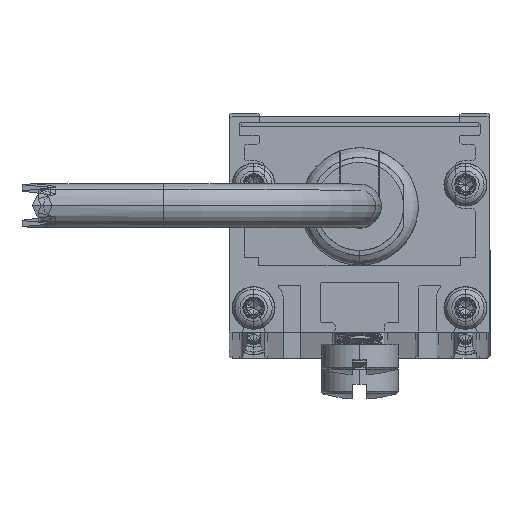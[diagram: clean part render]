
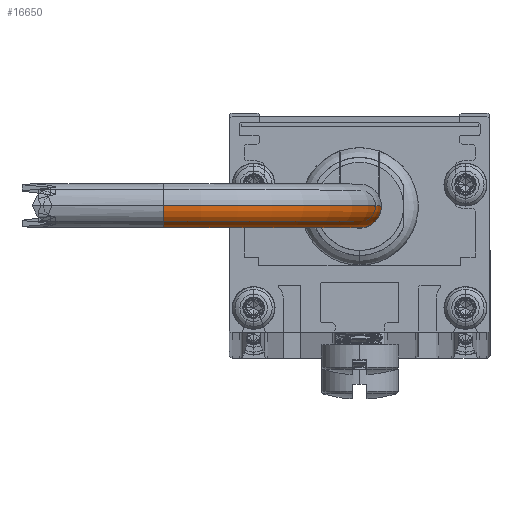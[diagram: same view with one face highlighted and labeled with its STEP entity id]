
A CAD part, top view. The second image highlights one B-rep face of the part: STEP entity #16650.
In plain terms, the highlighted toroidal (fillet/blend) face has major radius 25.4 mm and minor radius 2.845 mm.
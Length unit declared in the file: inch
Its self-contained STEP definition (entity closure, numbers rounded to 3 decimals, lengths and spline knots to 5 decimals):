
#514 = VERTEX_POINT ( 'NONE', #16272 ) ;
#708 = CIRCLE ( 'NONE', #14692, 1.112 ) ;
#766 = DIRECTION ( 'NONE',  ( 0., 0., 1. ) ) ;
#1902 = CIRCLE ( 'NONE', #5957, 0.888 ) ;
#2107 = ORIENTED_EDGE ( 'NONE', *, *, #8866, .F. ) ;
#2801 = CARTESIAN_POINT ( 'NONE',  ( 1., 0., -1.888 ) ) ;
#3798 = DIRECTION ( 'NONE',  ( 0., -1., 0. ) ) ;
#4184 = TOROIDAL_SURFACE ( 'NONE', #16895, 1., 0.112 ) ;
#5378 = VERTEX_POINT ( 'NONE', #2801 ) ;
#5649 = EDGE_CURVE ( 'NONE', #11848, #514, #708, .T. ) ;
#5957 = AXIS2_PLACEMENT_3D ( 'NONE', #11059, #6768, #9769 ) ;
#6157 = DIRECTION ( 'NONE',  ( 0., -1., 0. ) ) ;
#6631 = AXIS2_PLACEMENT_3D ( 'NONE', #11959, #10987, #10782 ) ;
#6670 = FACE_OUTER_BOUND ( 'NONE', #16783, .T. ) ;
#6768 = DIRECTION ( 'NONE',  ( 0., -1., 0. ) ) ;
#7636 = DIRECTION ( 'NONE',  ( 0., 0., -1. ) ) ;
#8051 = DIRECTION ( 'NONE',  ( 1., 0., 0. ) ) ;
#8298 = CIRCLE ( 'NONE', #9978, 0.112 ) ;
#8866 = EDGE_CURVE ( 'NONE', #11848, #12471, #8298, .T. ) ;
#9769 = DIRECTION ( 'NONE',  ( 1., 0., 0. ) ) ;
#9905 = CARTESIAN_POINT ( 'NONE',  ( -0.112, 0., -1. ) ) ;
#9978 = AXIS2_PLACEMENT_3D ( 'NONE', #15190, #766, #16879 ) ;
#10412 = EDGE_CURVE ( 'NONE', #12471, #5378, #1902, .T. ) ;
#10616 = ORIENTED_EDGE ( 'NONE', *, *, #10412, .F. ) ;
#10782 = DIRECTION ( 'NONE',  ( 0., 0., 1. ) ) ;
#10987 = DIRECTION ( 'NONE',  ( -1., 0., 0. ) ) ;
#11059 = CARTESIAN_POINT ( 'NONE',  ( 1., 0., -1. ) ) ;
#11453 = ORIENTED_EDGE ( 'NONE', *, *, #12889, .T. ) ;
#11848 = VERTEX_POINT ( 'NONE', #9905 ) ;
#11959 = CARTESIAN_POINT ( 'NONE',  ( 1., 0., -2. ) ) ;
#12118 = CARTESIAN_POINT ( 'NONE',  ( 1., 0., -1. ) ) ;
#12471 = VERTEX_POINT ( 'NONE', #16374 ) ;
#12889 = EDGE_CURVE ( 'NONE', #514, #5378, #13902, .T. ) ;
#12949 = ORIENTED_EDGE ( 'NONE', *, *, #5649, .T. ) ;
#13902 = CIRCLE ( 'NONE', #6631, 0.112 ) ;
#14692 = AXIS2_PLACEMENT_3D ( 'NONE', #15513, #3798, #8051 ) ;
#15190 = CARTESIAN_POINT ( 'NONE',  ( 0., 0., -1. ) ) ;
#15513 = CARTESIAN_POINT ( 'NONE',  ( 1., 0., -1. ) ) ;
#16272 = CARTESIAN_POINT ( 'NONE',  ( 1., 0., -2.112 ) ) ;
#16374 = CARTESIAN_POINT ( 'NONE',  ( 0.112, 0., -1. ) ) ;
#16650 = ADVANCED_FACE ( 'NONE', ( #6670 ), #4184, .T. ) ;
#16783 = EDGE_LOOP ( 'NONE', ( #2107, #12949, #11453, #10616 ) ) ;
#16879 = DIRECTION ( 'NONE',  ( 1., 0., 0. ) ) ;
#16895 = AXIS2_PLACEMENT_3D ( 'NONE', #12118, #6157, #7636 ) ;
